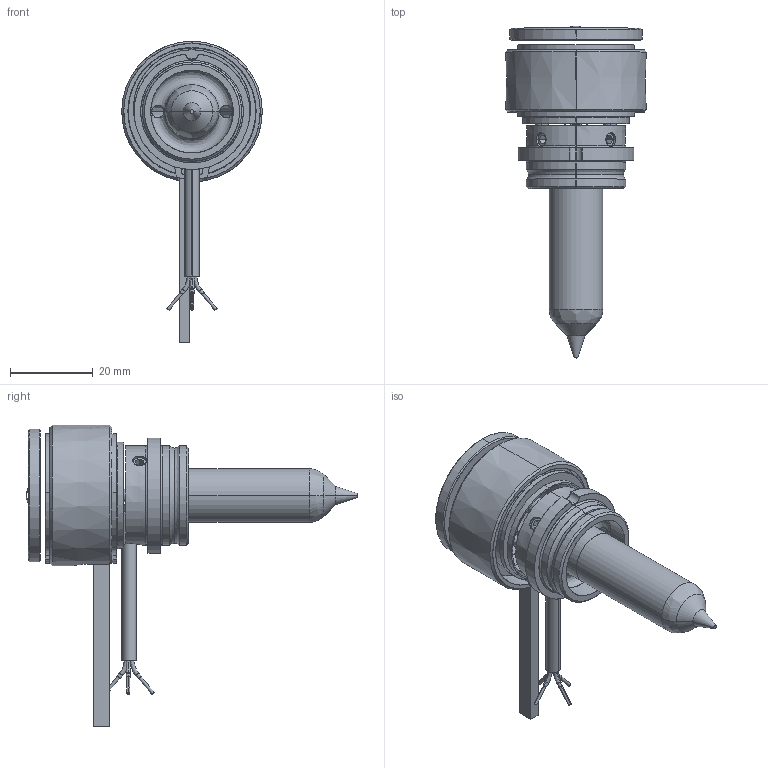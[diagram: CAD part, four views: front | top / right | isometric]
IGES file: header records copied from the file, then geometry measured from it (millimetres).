
Start section: SolidWorks IGES file using analytic representation for surfaces
Global section: file name: C:\Documents and Settings\ws-20\Desktop\TEM\UGGS2520-S-0 [Øf-0.89].IGS; native system: SolidWorks 2012; preprocessor: SolidWorks 2012; author: ws-20; date: 120516.092943; units: millimetre
Bounding box: 34 x 80.3 x 72.9 mm (x, y, z)
Surface area: 15790.9 mm2 (no closed solid volume)
Topology: 0 solids, 0 shells, 207 faces, 2955 edges, 2949 vertices
Faces by surface type: revolution 129, bspline 78
